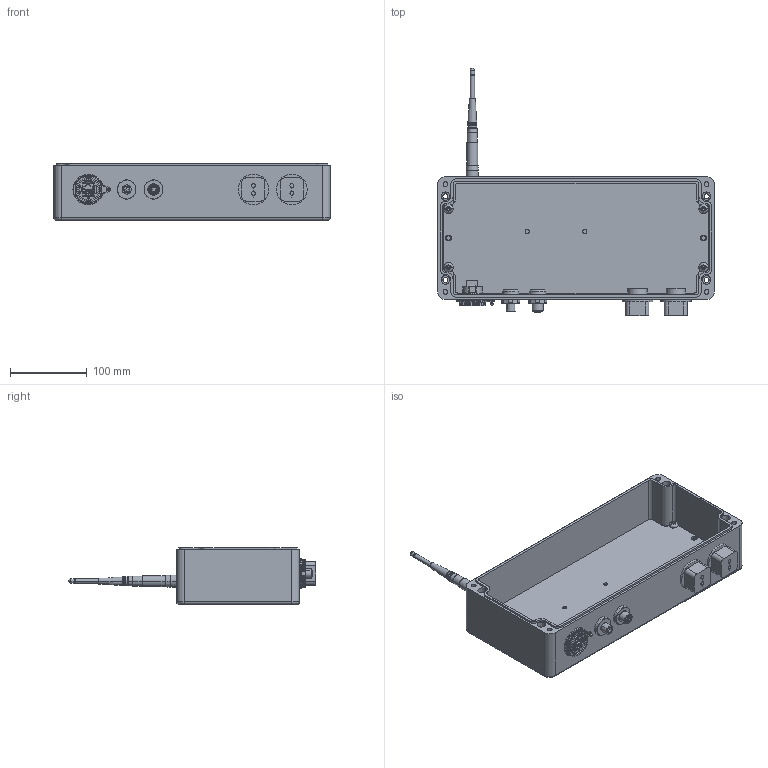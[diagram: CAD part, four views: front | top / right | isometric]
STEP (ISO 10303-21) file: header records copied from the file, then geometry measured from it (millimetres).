
FILE_DESCRIPTION((''),'2;1');
FILE_NAME('CD_NI_9922_BOTTOM_ENCLOSURE','2009-07-15T',('scarrasc'),(''),'PRO/ENGINEER BY PARAMETRIC TECHNOLOGY CORPORATION, 2006300','PRO/ENGINEER BY PARAMETRIC TECHNOLOGY CORPORATION, 2006300','');
FILE_SCHEMA(('CONFIG_CONTROL_DESIGN'));
Products named in the file (1): CD_NI_9922_BOTTOM_ENCLOSURE
Bounding box: 360 x 322 x 73.5 mm (x, y, z)
Volume: 991524.9 mm3; surface area: 393219.7 mm2
Topology: 2 solids, 3 shells, 1236 faces, 3137 edges, 1984 vertices
Faces by surface type: plane 572, cylinder 334, bspline 108, cone 78, extrusion 72, torus 52, sphere 20
Entity records: 60199 total; most frequent: CARTESIAN_POINT 30916, ORIENTED_EDGE 6230, DIRECTION 5692, EDGE_CURVE 3115, VERTEX_POINT 2060, AXIS2_PLACEMENT_3D 1997, VECTOR 1698, LINE 1626
